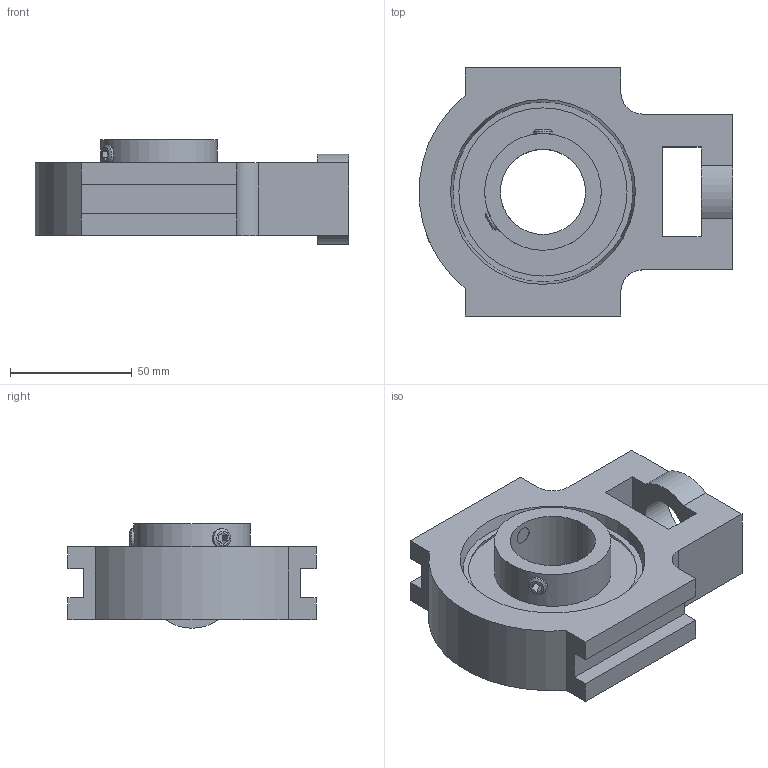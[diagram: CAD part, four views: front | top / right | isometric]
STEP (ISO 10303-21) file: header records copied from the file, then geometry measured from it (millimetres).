
FILE_DESCRIPTION((''),'2;1');
FILE_NAME('\\Ts-tgl068\j-cad-d-base\00.3DCADデータ作成フォルダ\03.テークアップ形\BT200\BT207.stp','2014-06-27T08:09:07',('btec_1106_2'),(''),'Autodesk Inventor 2012','Autodesk Inventor 2012','');
FILE_SCHEMA(('AUTOMOTIVE_DESIGN { 1 0 10303 214 1 1 1 1 }'));
Length unit declared in the file: millimetre
Products named in the file (3): BT200; T200G00 [番手=207 ul]; シリーズB [番手=7 ul]
Assembly tree (2 placements, depth 2):
  BT200
    T200G00 [番手=207 ul]
    シリーズB [番手=7 ul]
Bounding box: 128.83 x 102 x 42.9 mm (x, y, z)
Volume: 226943.3 mm3; surface area: 52436.7 mm2
Topology: 2 solids, 2 shells, 66 faces, 168 edges, 111 vertices
Faces by surface type: plane 46, cylinder 14, cone 4, sphere 2
Full cylindrical faces by diameter (mm): 8 x2, 22 x1, 35 x1, 48 x1
Entity records: 2088 total; most frequent: CARTESIAN_POINT 463, DIRECTION 316, ORIENTED_EDGE 300, EDGE_CURVE 150, VECTOR 110, LINE 110, VERTEX_POINT 106, AXIS2_PLACEMENT_3D 103
